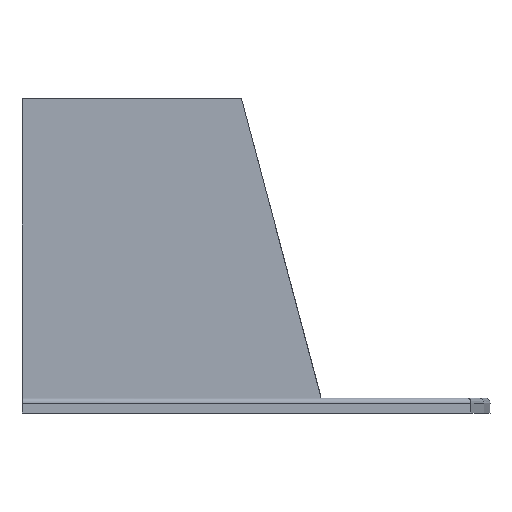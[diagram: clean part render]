
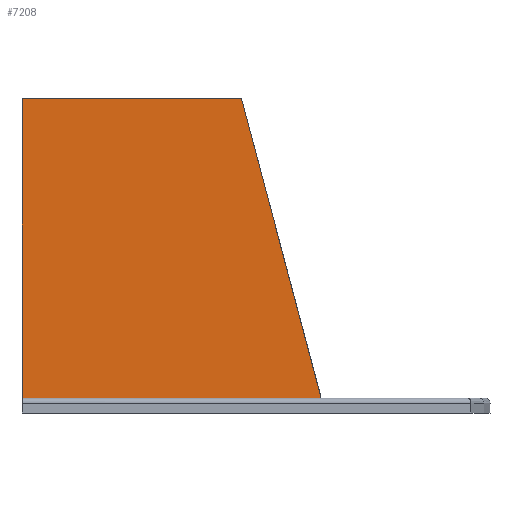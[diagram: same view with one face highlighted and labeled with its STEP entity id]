
A CAD part, left-side view. The second image highlights one B-rep face of the part: STEP entity #7208.
In plain terms, the highlighted planar face has unit normal (-1, 0, 0).
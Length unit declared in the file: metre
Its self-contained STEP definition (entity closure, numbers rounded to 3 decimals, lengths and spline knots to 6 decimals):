
#1188=ORIENTED_EDGE('',*,*,#3395,.T.);
#1189=ORIENTED_EDGE('',*,*,#3418,.T.);
#1190=ORIENTED_EDGE('',*,*,#3383,.F.);
#1191=ORIENTED_EDGE('',*,*,#3412,.T.);
#3383=EDGE_CURVE('',#4510,#4511,#5043,.T.);
#3395=EDGE_CURVE('',#4521,#4520,#5052,.T.);
#3412=EDGE_CURVE('',#4510,#4521,#5062,.T.);
#3418=EDGE_CURVE('',#4520,#4511,#5064,.T.);
#4510=VERTEX_POINT('',#10147);
#4511=VERTEX_POINT('',#10148);
#4520=VERTEX_POINT('',#10177);
#4521=VERTEX_POINT('',#10179);
#5043=LINE('',#10146,#5645);
#5052=LINE('',#10178,#5654);
#5062=LINE('',#10213,#5664);
#5064=LINE('',#10232,#5666);
#5645=VECTOR('',#8096,1.);
#5654=VECTOR('',#8109,1.);
#5664=VECTOR('',#8141,1.);
#5666=VECTOR('',#8157,1.);
#6177=EDGE_LOOP('',(#1188,#1189,#1190,#1191));
#6632=FACE_BOUND('',#6177,.T.);
#7059=PLANE('',#7675);
#7208=ADVANCED_FACE('',(#6632),#7059,.F.);
#7675=AXIS2_PLACEMENT_3D('',#10231,#8155,#8156);
#8096=DIRECTION('',(0.,-1.,0.));
#8109=DIRECTION('',(0.,-1.,0.));
#8141=DIRECTION('',(0.,0.,-1.));
#8155=DIRECTION('',(1.,0.,0.));
#8156=DIRECTION('',(0.,1.,0.));
#8157=DIRECTION('',(0.,0.258,0.966));
#10146=CARTESIAN_POINT('',(0.0025,-0.03,0.063));
#10147=CARTESIAN_POINT('',(0.0025,0.,0.063));
#10148=CARTESIAN_POINT('',(0.0025,-0.044,0.063));
#10177=CARTESIAN_POINT('',(0.0025,-0.06,0.003));
#10178=CARTESIAN_POINT('',(0.0025,-0.03,0.003));
#10179=CARTESIAN_POINT('',(0.0025,0.,0.003));
#10213=CARTESIAN_POINT('',(0.0025,0.,0.063));
#10231=CARTESIAN_POINT('',(0.0025,-0.03,0.063));
#10232=CARTESIAN_POINT('',(0.0025,-0.043071,0.066485));
